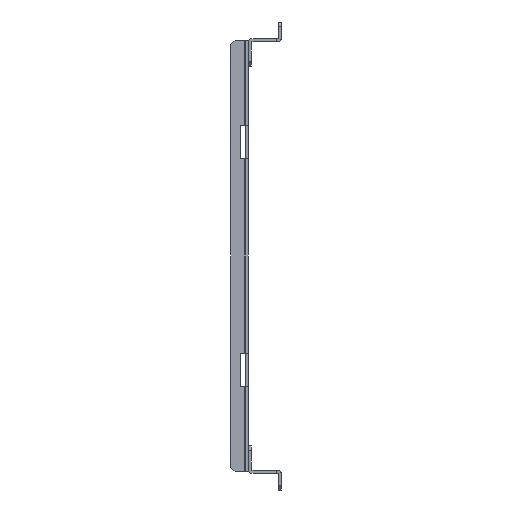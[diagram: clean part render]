
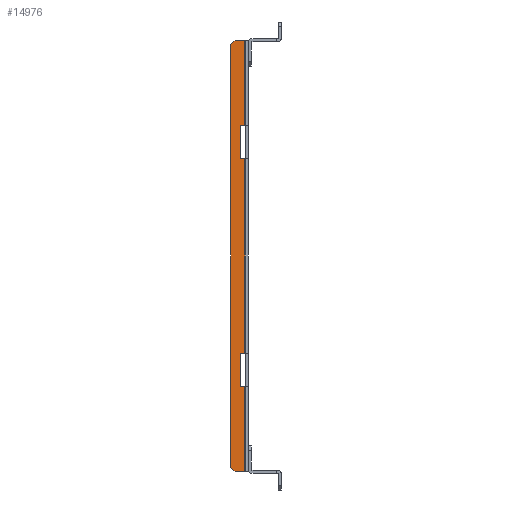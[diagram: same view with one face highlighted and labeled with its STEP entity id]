
A CAD part, left-side view. The second image highlights one B-rep face of the part: STEP entity #14976.
In plain terms, the highlighted planar face has unit normal (-1, 0, 0).
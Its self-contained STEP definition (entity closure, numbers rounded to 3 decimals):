
#10761=CARTESIAN_POINT(' ',(-274.5,3.5,64.));
#10762=VERTEX_POINT(' ',#10761);
#10776=CARTESIAN_POINT(' ',(-274.5,0.6,64.));
#10781=DIRECTION(' ',(0.,1.,0.));
#10786=VECTOR(' ',#10781,1.);
#10791=LINE('',#10776,#10786);
#10796=CARTESIAN_POINT(' ',(-274.5,0.6,64.));
#10797=VERTEX_POINT(' ',#10796);
#10801=EDGE_CURVE(' ',#10797,#10762,#10791,.T.);
#11036=CARTESIAN_POINT(' ',(-274.5,0.6,86.));
#11037=VERTEX_POINT(' ',#11036);
#11051=CARTESIAN_POINT(' ',(-274.5,3.5,86.));
#11056=DIRECTION(' ',(0.,-1.,0.));
#11061=VECTOR(' ',#11056,1.);
#11066=LINE('',#11051,#11061);
#11071=CARTESIAN_POINT(' ',(-274.5,3.5,86.));
#11072=VERTEX_POINT(' ',#11071);
#11076=EDGE_CURVE(' ',#11072,#11037,#11066,.T.);
#12216=CARTESIAN_POINT(' ',(-274.5,3.5,-86.));
#12217=VERTEX_POINT(' ',#12216);
#12231=CARTESIAN_POINT(' ',(-274.5,0.6,-86.));
#12236=DIRECTION(' ',(0.,1.,0.));
#12241=VECTOR(' ',#12236,1.);
#12246=LINE('',#12231,#12241);
#12251=CARTESIAN_POINT(' ',(-274.5,0.6,-86.));
#12252=VERTEX_POINT(' ',#12251);
#12256=EDGE_CURVE(' ',#12252,#12217,#12246,.T.);
#12491=CARTESIAN_POINT(' ',(-274.5,0.6,-64.));
#12492=VERTEX_POINT(' ',#12491);
#12506=CARTESIAN_POINT(' ',(-274.5,3.5,-64.));
#12511=DIRECTION(' ',(0.,-1.,0.));
#12516=VECTOR(' ',#12511,1.);
#12521=LINE('',#12506,#12516);
#12526=CARTESIAN_POINT(' ',(-274.5,3.5,-64.));
#12527=VERTEX_POINT(' ',#12526);
#12531=EDGE_CURVE(' ',#12527,#12492,#12521,.T.);
#12661=CARTESIAN_POINT(' ',(-274.5,0.6,64.));
#12666=DIRECTION(' ',(0.,0.,-1.));
#12671=VECTOR(' ',#12666,1.);
#12676=LINE('',#12661,#12671);
#12681=EDGE_CURVE(' ',#10797,#12492,#12676,.T.);
#12781=CARTESIAN_POINT(' ',(-274.5,0.6,142.));
#12782=VERTEX_POINT(' ',#12781);
#12796=CARTESIAN_POINT(' ',(-274.5,0.6,142.));
#12801=DIRECTION(' ',(0.,0.,-1.));
#12806=VECTOR(' ',#12801,1.);
#12811=LINE('',#12796,#12806);
#12816=EDGE_CURVE(' ',#12782,#11037,#12811,.T.);
#12871=CARTESIAN_POINT(' ',(-274.5,0.6,-86.));
#12876=DIRECTION(' ',(0.,0.,-1.));
#12881=VECTOR(' ',#12876,1.);
#12886=LINE('',#12871,#12881);
#12891=CARTESIAN_POINT(' ',(-274.5,0.6,-142.));
#12892=VERTEX_POINT(' ',#12891);
#12896=EDGE_CURVE(' ',#12252,#12892,#12886,.T.);
#14646=CARTESIAN_POINT(' ',(-274.5,3.5,64.));
#14651=DIRECTION(' ',(0.,0.,1.));
#14656=VECTOR(' ',#14651,1.);
#14661=LINE('',#14646,#14656);
#14666=EDGE_CURVE(' ',#10762,#11072,#14661,.T.);
#14701=DIRECTION(' ',(-1.,-0.,0.));
#14706=CARTESIAN_POINT(' ',(-274.5,0.6,142.));
#14711=DIRECTION(' ',(0.,1.,0.));
#14716=AXIS2_PLACEMENT_3D(' ',#14706,#14701,#14711);
#14721=PLANE('NONE',#14716);
#14726=ORIENTED_EDGE(' ',*,*,#10801,.T.);
#14731=ORIENTED_EDGE(' ',*,*,#14666,.T.);
#14736=ORIENTED_EDGE(' ',*,*,#11076,.T.);
#14741=ORIENTED_EDGE(' ',*,*,#12816,.F.);
#14746=CARTESIAN_POINT(' ',(-274.5,7.,142.));
#14751=DIRECTION(' ',(0.,-1.,0.));
#14756=VECTOR(' ',#14751,1.);
#14761=LINE('',#14746,#14756);
#14766=CARTESIAN_POINT(' ',(-274.5,7.,142.));
#14767=VERTEX_POINT(' ',#14766);
#14771=EDGE_CURVE(' ',#14767,#12782,#14761,.T.);
#14776=ORIENTED_EDGE(' ',*,*,#14771,.F.);
#14781=CARTESIAN_POINT(' ',(-274.5,7.,142.));
#14786=DIRECTION(' ',(0.,0.707,-0.707));
#14791=VECTOR(' ',#14786,1.);
#14796=LINE('',#14781,#14791);
#14801=CARTESIAN_POINT(' ',(-274.5,10.,139.));
#14802=VERTEX_POINT(' ',#14801);
#14806=EDGE_CURVE(' ',#14767,#14802,#14796,.T.);
#14811=ORIENTED_EDGE(' ',*,*,#14806,.T.);
#14816=CARTESIAN_POINT(' ',(-274.5,10.,139.));
#14821=DIRECTION(' ',(0.,0.,-1.));
#14826=VECTOR(' ',#14821,1.);
#14831=LINE('',#14816,#14826);
#14836=CARTESIAN_POINT(' ',(-274.5,10.,-139.));
#14837=VERTEX_POINT(' ',#14836);
#14841=EDGE_CURVE(' ',#14802,#14837,#14831,.T.);
#14846=ORIENTED_EDGE(' ',*,*,#14841,.T.);
#14851=CARTESIAN_POINT(' ',(-274.5,10.,-139.));
#14856=DIRECTION(' ',(0.,-0.707,-0.707));
#14861=VECTOR(' ',#14856,1.);
#14866=LINE('',#14851,#14861);
#14871=CARTESIAN_POINT(' ',(-274.5,7.,-142.));
#14872=VERTEX_POINT(' ',#14871);
#14876=EDGE_CURVE(' ',#14837,#14872,#14866,.T.);
#14881=ORIENTED_EDGE(' ',*,*,#14876,.T.);
#14886=CARTESIAN_POINT(' ',(-274.5,7.,-142.));
#14891=DIRECTION(' ',(0.,-1.,0.));
#14896=VECTOR(' ',#14891,1.);
#14901=LINE('',#14886,#14896);
#14906=EDGE_CURVE(' ',#14872,#12892,#14901,.T.);
#14911=ORIENTED_EDGE(' ',*,*,#14906,.T.);
#14916=ORIENTED_EDGE(' ',*,*,#12896,.F.);
#14921=ORIENTED_EDGE(' ',*,*,#12256,.T.);
#14926=CARTESIAN_POINT(' ',(-274.5,3.5,-86.));
#14931=DIRECTION(' ',(0.,0.,1.));
#14936=VECTOR(' ',#14931,1.);
#14941=LINE('',#14926,#14936);
#14946=EDGE_CURVE(' ',#12217,#12527,#14941,.T.);
#14951=ORIENTED_EDGE(' ',*,*,#14946,.T.);
#14956=ORIENTED_EDGE(' ',*,*,#12531,.T.);
#14961=ORIENTED_EDGE(' ',*,*,#12681,.F.);
#14966=EDGE_LOOP(' ',(#14726,#14731,#14736,#14741,#14776,#14811,#14846,#14881,#14911,#14916,#14921,#14951,#14956,#14961));
#14971=FACE_OUTER_BOUND(' ',#14966,.T.);
#14976=ADVANCED_FACE('NONE',(#14971),#14721,.T.);
